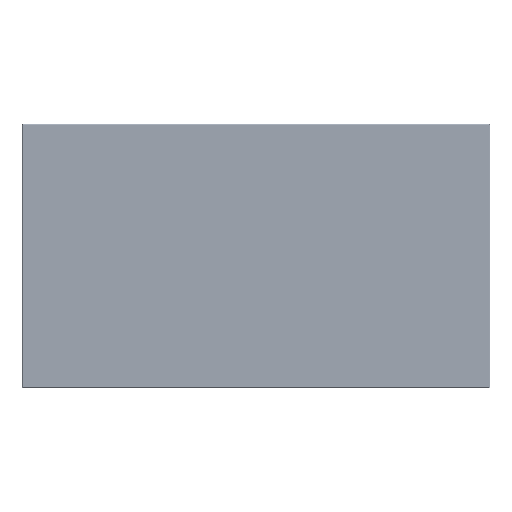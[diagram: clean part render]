
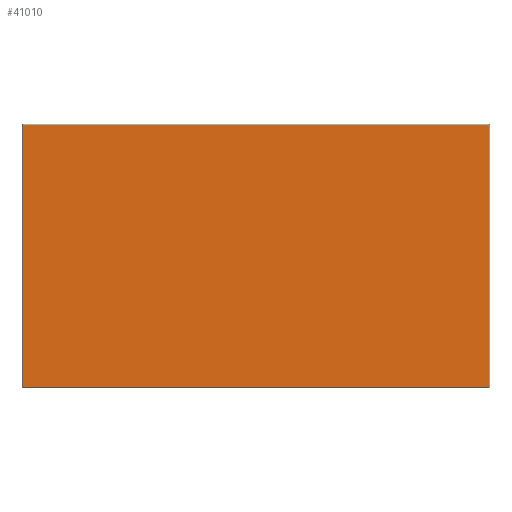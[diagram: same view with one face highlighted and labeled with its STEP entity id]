
A CAD part, front view. The second image highlights one B-rep face of the part: STEP entity #41010.
In plain terms, the highlighted planar face has unit normal (0, -1, 0).
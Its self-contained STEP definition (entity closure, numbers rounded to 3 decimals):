
#3006 = VERTEX_POINT ( 'NONE', #72443 ) ;
#16184 = DIRECTION ( 'NONE',  ( 0., 0., 1. ) ) ;
#23399 = LINE ( 'NONE', #62467, #28380 ) ;
#28380 = VECTOR ( 'NONE', #142035, 1000. ) ;
#39437 = ORIENTED_EDGE ( 'NONE', *, *, #149674, .T. ) ;
#41010 = ADVANCED_FACE ( 'NONE', ( #47472 ), #69301, .F. ) ;
#41159 = AXIS2_PLACEMENT_3D ( 'NONE', #103482, #71399, #148931 ) ;
#41415 = CARTESIAN_POINT ( 'NONE',  ( 0., -98.142, -341.12 ) ) ;
#47472 = FACE_OUTER_BOUND ( 'NONE', #183684, .T. ) ;
#53037 = CARTESIAN_POINT ( 'NONE',  ( 605.72, -98.142, 341.12 ) ) ;
#57429 = ORIENTED_EDGE ( 'NONE', *, *, #83279, .T. ) ;
#62037 = VERTEX_POINT ( 'NONE', #147962 ) ;
#62467 = CARTESIAN_POINT ( 'NONE',  ( 0., -98.142, 341.12 ) ) ;
#66760 = EDGE_CURVE ( 'NONE', #79699, #62037, #121966, .T. ) ;
#69301 = PLANE ( 'NONE',  #41159 ) ;
#69983 = CARTESIAN_POINT ( 'NONE',  ( -605.72, -98.142, 0. ) ) ;
#71399 = DIRECTION ( 'NONE',  ( 0., 1., 0. ) ) ;
#72443 = CARTESIAN_POINT ( 'NONE',  ( 605.72, -98.142, -341.12 ) ) ;
#73282 = VECTOR ( 'NONE', #88209, 1000. ) ;
#79699 = VERTEX_POINT ( 'NONE', #184803 ) ;
#80576 = VERTEX_POINT ( 'NONE', #53037 ) ;
#83279 = EDGE_CURVE ( 'NONE', #80576, #79699, #23399, .T. ) ;
#88209 = DIRECTION ( 'NONE',  ( 1., 0., 0. ) ) ;
#88558 = LINE ( 'NONE', #41415, #73282 ) ;
#103482 = CARTESIAN_POINT ( 'NONE',  ( 0., -98.142, 0. ) ) ;
#121966 = LINE ( 'NONE', #69983, #139383 ) ;
#139383 = VECTOR ( 'NONE', #198438, 1000. ) ;
#142035 = DIRECTION ( 'NONE',  ( -1., 0., 0. ) ) ;
#147962 = CARTESIAN_POINT ( 'NONE',  ( -605.72, -98.142, -341.12 ) ) ;
#148931 = DIRECTION ( 'NONE',  ( 0., 0., -1. ) ) ;
#149674 = EDGE_CURVE ( 'NONE', #62037, #3006, #88558, .T. ) ;
#152972 = LINE ( 'NONE', #159423, #175443 ) ;
#159423 = CARTESIAN_POINT ( 'NONE',  ( 605.72, -98.142, 0. ) ) ;
#175443 = VECTOR ( 'NONE', #16184, 1000. ) ;
#183684 = EDGE_LOOP ( 'NONE', ( #39437, #205519, #57429, #200750 ) ) ;
#184803 = CARTESIAN_POINT ( 'NONE',  ( -605.72, -98.142, 341.12 ) ) ;
#189236 = EDGE_CURVE ( 'NONE', #3006, #80576, #152972, .T. ) ;
#198438 = DIRECTION ( 'NONE',  ( 0., 0., -1. ) ) ;
#200750 = ORIENTED_EDGE ( 'NONE', *, *, #66760, .T. ) ;
#205519 = ORIENTED_EDGE ( 'NONE', *, *, #189236, .T. ) ;
